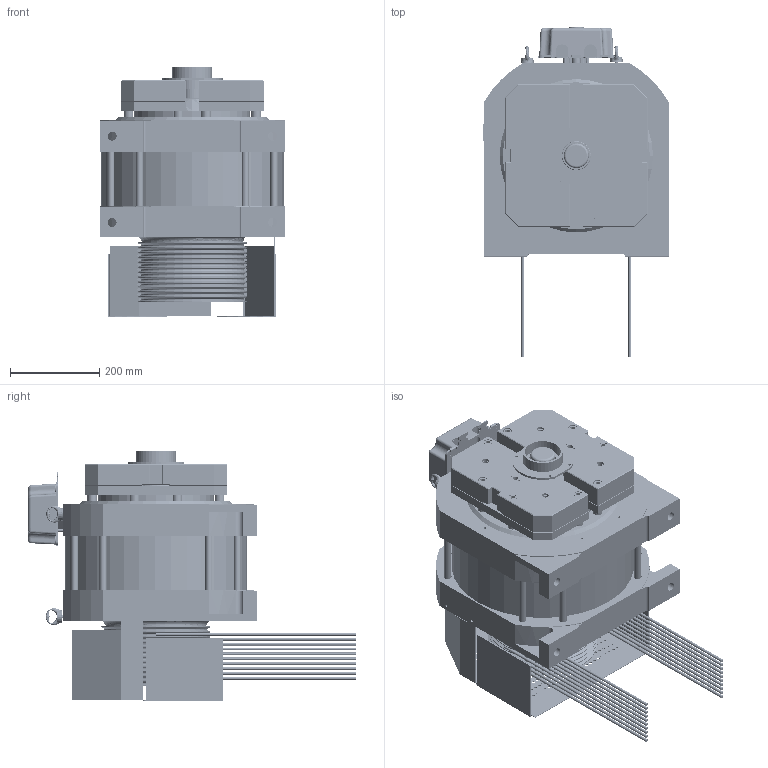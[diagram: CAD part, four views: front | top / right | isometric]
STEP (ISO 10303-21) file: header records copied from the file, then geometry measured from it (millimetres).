
FILE_DESCRIPTION (( 'STEP AP214' ), '1' );
FILE_NAME ('CSAG-K-1300-1.0.STEP', '2025-03-12T08:48:38', ( '' ), ( '' ), 'SwSTEP 2.0', 'SolidWorks 2025', '' );
FILE_SCHEMA (( 'AUTOMOTIVE_DESIGN' ));
Length unit declared in the file: millimetre
Products named in the file (1): CSAG-K-1300-1.0
Bounding box: 417.5 x 738 x 560.5 mm (x, y, z)
Volume: 41230183.8 mm3; surface area: 5541345.4 mm2
Topology: 276 solids, 276 shells, 5362 faces, 12758 edges, 7971 vertices
Faces by surface type: cylinder 2290, plane 1731, cone 625, torus 426, bspline 166, sphere 124
Entity records: 184712 total; most frequent: CARTESIAN_POINT 56607, DIRECTION 27530, ORIENTED_EDGE 24680, EDGE_CURVE 12340, AXIS2_PLACEMENT_3D 11288, VERTEX_POINT 7911, EDGE_LOOP 6603, CIRCLE 6091
